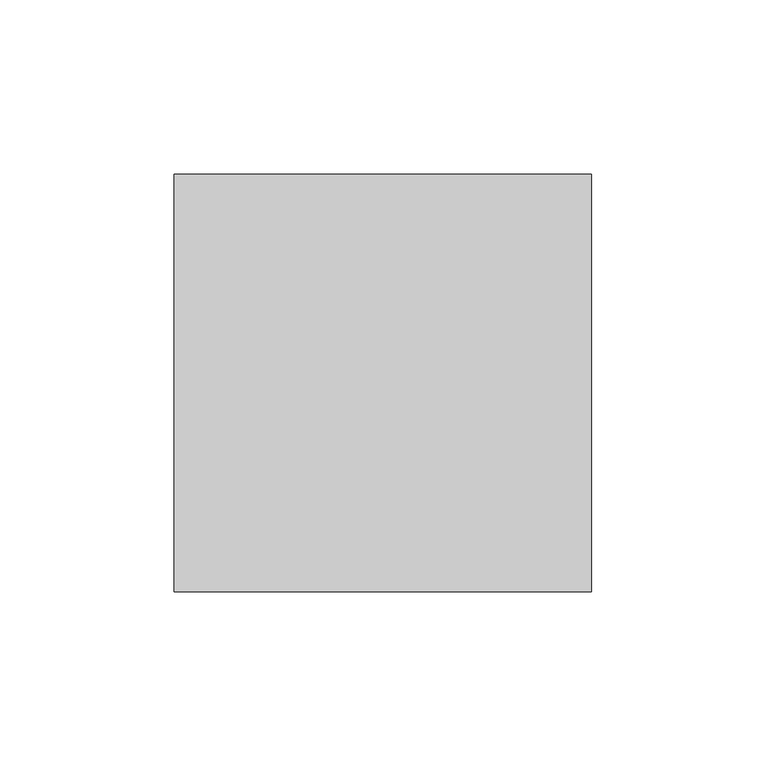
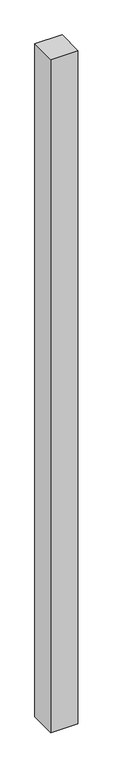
"""IFC4 building model written with IfcOpenShell, lengths in millimetres: proxy geometry."""

from ifc_helpers import new_model, si_unit, origin, origin_with_axes, place, context, project, spatial, polyline, outline, extrude, source, transform, mapped, element, save


def generic_models_8bc00846(model_context):
    return source(origin(), model_context, "Body", "SweptSolid", [
        extrude(outline(polyline([(2575.5062791, 60.0), (2575.5062791, -60.0), (2455.5062791, -60.0), (2455.5062791, 60.0), (2575.5062791, 60.0)])), origin_with_axes(), (0.0, 0.0, 1.0), 3130.0),
    ])


if __name__ == "__main__":
    model = new_model("IFC4")
    model_context = context("Model", 3, world=origin())
    ifc_project = project(units=[si_unit("LENGTHUNIT", "METRE", prefix="MILLI")], contexts=[model_context])
    site = spatial("IfcSite", under=ifc_project)
    building = spatial("IfcBuilding", under=site)
    placement = place(None, origin())
    generic_models_shape = generic_models_8bc00846(model_context)
    element("IfcBuildingElementProxy", 1, Name="Generic Models", at=placement, inside=building, context=model_context, shape_type="MappedRepresentation", body=[
        mapped(generic_models_shape, transform((0.0, 0.0, 0.0), x_axis=(1.0, 0.0, 0.0), y_axis=(0.0, 1.0, 0.0), z_axis=(0.0, 0.0, 1.0))),
    ])
    save(model, "model.ifc")
